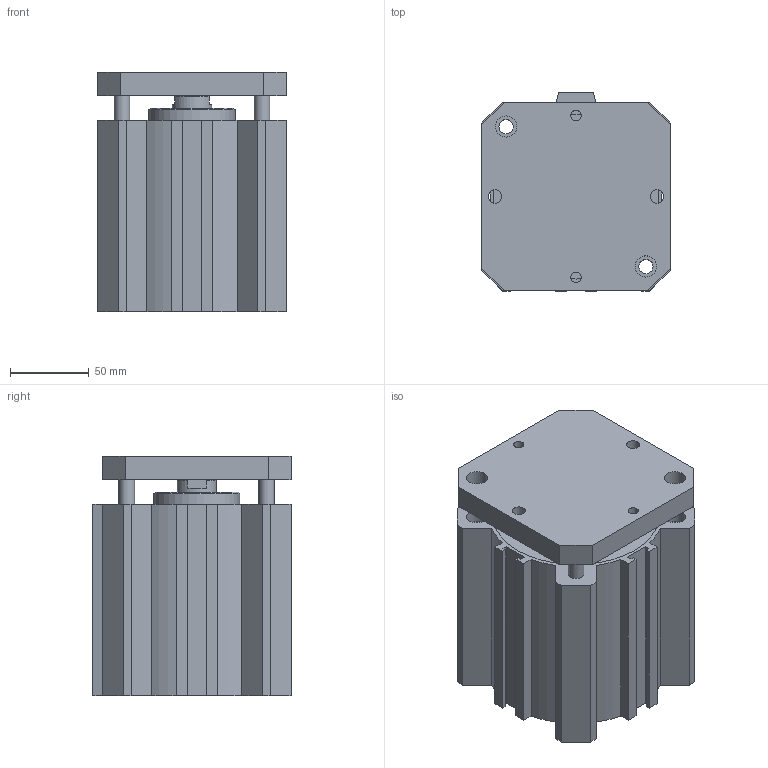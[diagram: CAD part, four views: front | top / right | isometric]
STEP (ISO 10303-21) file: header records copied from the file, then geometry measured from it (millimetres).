
FILE_DESCRIPTION(/* description */ (''),/* implementation_level */ '2;1');
FILE_NAME(/* name */ 'I:\Area Tecnica\Disegni\VARIE-3D\Componenti\1500\Ø100\15##_100_####_#\1501_100_0075_AR.stp',/* time_stamp */ '2016-08-24T15:10:31+02:00',/* author */ ('Maniean1'),/* organization */ (''),/* preprocessor_version */ 'ST-DEVELOPER v15.2',/* originating_system */ 'Autodesk Inventor 2014',/* authorisation */ '');
FILE_SCHEMA (('AUTOMOTIVE_DESIGN { 1 0 10303 214 3 1 1 }'));
Length unit declared in the file: millimetre
Products named in the file (3): C_1501_100_0075_AR; S_1501_100_0075_AR; 1501_100_0075_AR
Bounding box: 120 x 126 x 152.5 mm (x, y, z)
Volume: 1092707.6 mm3; surface area: 237341.6 mm2
Topology: 2 solids, 2 shells, 139 faces, 342 edges, 229 vertices
Faces by surface type: plane 94, cylinder 40, cone 5
Full cylindrical faces by diameter (mm): 6.647 x2, 8.5 x2, 9 x4, 10 x4, 13.5 x10, 14.95 x2, 25 x2, 55 x2, 100 x2, 105 x2
Entity records: 3978 total; most frequent: CARTESIAN_POINT 674, DIRECTION 672, ORIENTED_EDGE 600, EDGE_CURVE 300, AXIS2_PLACEMENT_3D 232, VERTEX_POINT 222, EDGE_LOOP 216, LINE 208
